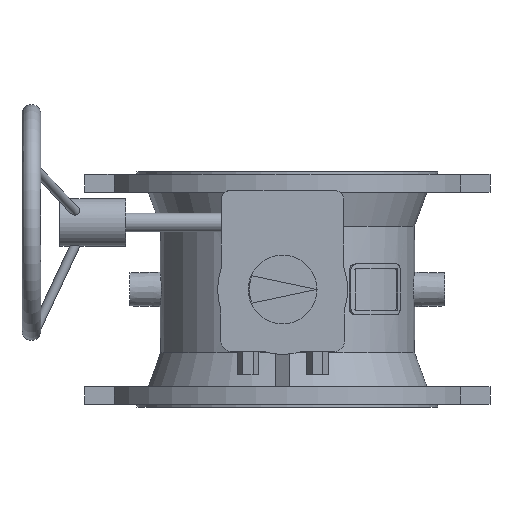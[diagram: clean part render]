
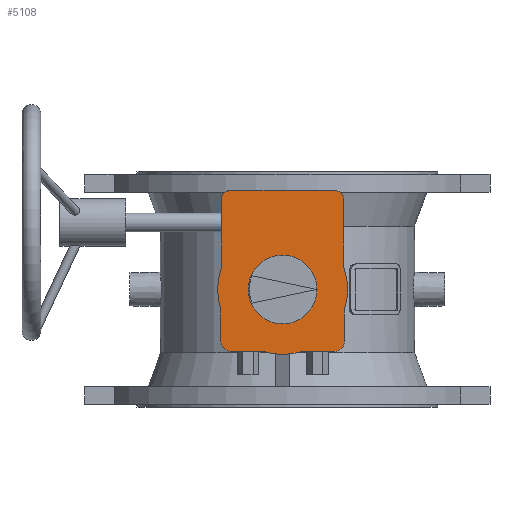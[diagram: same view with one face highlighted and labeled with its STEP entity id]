
A CAD part, left-side view. The second image highlights one B-rep face of the part: STEP entity #5108.
In plain terms, the highlighted planar face has unit normal (-1, 0, 0).
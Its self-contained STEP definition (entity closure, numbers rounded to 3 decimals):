
#4 = AXIS2_PLACEMENT_3D ( 'NONE', #11673, #11634, #11585 ) ;
#117 = AXIS2_PLACEMENT_3D ( 'NONE', #1069, #1070, #1050 ) ;
#140 = AXIS2_PLACEMENT_3D ( 'NONE', #11622, #11621, #11616 ) ;
#143 = AXIS2_PLACEMENT_3D ( 'NONE', #11679, #11677, #11672 ) ;
#154 = AXIS2_PLACEMENT_3D ( 'NONE', #11778, #11776, #11774 ) ;
#252 = CARTESIAN_POINT ( 'NONE',  ( -313., 0., 0. ) ) ;
#253 = DIRECTION ( 'NONE',  ( -1., 0., 0. ) ) ;
#254 = DIRECTION ( 'NONE',  ( 0., 0., 1. ) ) ;
#353 = DIRECTION ( 'NONE',  ( 0., 0., 1. ) ) ;
#354 = CARTESIAN_POINT ( 'NONE',  ( -313., 0., 0. ) ) ;
#355 = DIRECTION ( 'NONE',  ( -1., 0., 0. ) ) ;
#356 = DIRECTION ( 'NONE',  ( 0., 0., 1. ) ) ;
#358 = CARTESIAN_POINT ( 'NONE',  ( -313., -65., 24.819 ) ) ;
#372 = CARTESIAN_POINT ( 'NONE',  ( -313., -55.5, -55.5 ) ) ;
#373 = DIRECTION ( 'NONE',  ( -1., 0., 0. ) ) ;
#374 = DIRECTION ( 'NONE',  ( 0., 0., 1. ) ) ;
#377 = CARTESIAN_POINT ( 'NONE',  ( -313., -75., 24.819 ) ) ;
#378 = DIRECTION ( 'NONE',  ( 1., 0., 0. ) ) ;
#379 = DIRECTION ( 'NONE',  ( 0., 0., -1. ) ) ;
#384 = DIRECTION ( 'NONE',  ( 0., 0., 1. ) ) ;
#386 = CARTESIAN_POINT ( 'NONE',  ( -313., -55., 95. ) ) ;
#387 = DIRECTION ( 'NONE',  ( -1., 0., 0. ) ) ;
#388 = DIRECTION ( 'NONE',  ( 0., 0., 1. ) ) ;
#390 = CARTESIAN_POINT ( 'NONE',  ( -313., -65.5, -55.5 ) ) ;
#453 = CARTESIAN_POINT ( 'NONE',  ( -313., -55.5, -65.5 ) ) ;
#464 = CARTESIAN_POINT ( 'NONE',  ( -313., 65.5, -55.5 ) ) ;
#465 = DIRECTION ( 'NONE',  ( 0., 0., -1. ) ) ;
#472 = DIRECTION ( 'NONE',  ( 0., -1., 0. ) ) ;
#494 = CARTESIAN_POINT ( 'NONE',  ( -313., 55., 95. ) ) ;
#495 = DIRECTION ( 'NONE',  ( -1., 0., 0. ) ) ;
#496 = DIRECTION ( 'NONE',  ( 0., 0., 1. ) ) ;
#662 = CARTESIAN_POINT ( 'NONE',  ( -313., 65., 24.819 ) ) ;
#663 = DIRECTION ( 'NONE',  ( 0., 0., -1. ) ) ;
#733 = CARTESIAN_POINT ( 'NONE',  ( -313., 0., 36.5 ) ) ;
#1050 = DIRECTION ( 'NONE',  ( 0., 0., 1. ) ) ;
#1069 = CARTESIAN_POINT ( 'NONE',  ( -313., 75., 24.819 ) ) ;
#1070 = DIRECTION ( 'NONE',  ( -1., 0., 0. ) ) ;
#1078 = PLANE ( 'NONE',  #117 ) ;
#1676 = FACE_OUTER_BOUND ( 'NONE', #14223, .T. ) ;
#1679 = FACE_BOUND ( 'NONE', #14298, .T. ) ;
#1884 = CIRCLE ( 'NONE', #4, 10. ) ;
#1905 = LINE ( 'NONE', #11885, #1912 ) ;
#1912 = VECTOR ( 'NONE', #11864, 1000. ) ;
#1926 = CIRCLE ( 'NONE', #154, 69. ) ;
#1935 = LINE ( 'NONE', #11681, #1943 ) ;
#1937 = CIRCLE ( 'NONE', #143, 69. ) ;
#1943 = VECTOR ( 'NONE', #11668, 1000. ) ;
#1952 = CIRCLE ( 'NONE', #140, 10. ) ;
#3096 = ORIENTED_EDGE ( 'NONE', *, *, #5775, .T. ) ;
#3097 = ORIENTED_EDGE ( 'NONE', *, *, #14111, .T. ) ;
#3098 = ORIENTED_EDGE ( 'NONE', *, *, #14155, .T. ) ;
#3099 = ORIENTED_EDGE ( 'NONE', *, *, #5743, .T. ) ;
#3100 = ORIENTED_EDGE ( 'NONE', *, *, #5773, .T. ) ;
#3101 = ORIENTED_EDGE ( 'NONE', *, *, #14099, .T. ) ;
#3102 = ORIENTED_EDGE ( 'NONE', *, *, #5783, .T. ) ;
#3103 = ORIENTED_EDGE ( 'NONE', *, *, #5757, .T. ) ;
#3104 = ORIENTED_EDGE ( 'NONE', *, *, #14009, .T. ) ;
#3105 = ORIENTED_EDGE ( 'NONE', *, *, #14102, .T. ) ;
#3106 = ORIENTED_EDGE ( 'NONE', *, *, #14056, .T. ) ;
#3107 = ORIENTED_EDGE ( 'NONE', *, *, #14068, .T. ) ;
#3108 = ORIENTED_EDGE ( 'NONE', *, *, #5765, .T. ) ;
#3109 = ORIENTED_EDGE ( 'NONE', *, *, #14058, .T. ) ;
#3110 = ORIENTED_EDGE ( 'NONE', *, *, #14053, .T. ) ;
#3111 = ORIENTED_EDGE ( 'NONE', *, *, #14062, .T. ) ;
#3112 = ORIENTED_EDGE ( 'NONE', *, *, #14049, .F. ) ;
#5108 = ADVANCED_FACE ( 'NONE', ( #1676, #1679 ), #1078, .T. ) ;
#5743 = EDGE_CURVE ( 'NONE', #7244, #7101, #1884, .T. ) ;
#5757 = EDGE_CURVE ( 'NONE', #7010, #6938, #1905, .T. ) ;
#5765 = EDGE_CURVE ( 'NONE', #7174, #7246, #1926, .T. ) ;
#5773 = EDGE_CURVE ( 'NONE', #7101, #6763, #1937, .T. ) ;
#5775 = EDGE_CURVE ( 'NONE', #7013, #7020, #1935, .T. ) ;
#5783 = EDGE_CURVE ( 'NONE', #6990, #7010, #1952, .T. ) ;
#6683 = VERTEX_POINT ( 'NONE', #8216 ) ;
#6763 = VERTEX_POINT ( 'NONE', #8138 ) ;
#6938 = VERTEX_POINT ( 'NONE', #8026 ) ;
#6939 = VERTEX_POINT ( 'NONE', #8025 ) ;
#6990 = VERTEX_POINT ( 'NONE', #7996 ) ;
#6995 = VERTEX_POINT ( 'NONE', #7994 ) ;
#7010 = VERTEX_POINT ( 'NONE', #7986 ) ;
#7013 = VERTEX_POINT ( 'NONE', #7984 ) ;
#7020 = VERTEX_POINT ( 'NONE', #7981 ) ;
#7091 = CARTESIAN_POINT ( 'NONE',  ( -313., -65.506, 21.678 ) ) ;
#7095 = CARTESIAN_POINT ( 'NONE',  ( -313., 65., 24.819 ) ) ;
#7101 = VERTEX_POINT ( 'NONE', #7932 ) ;
#7129 = VERTEX_POINT ( 'NONE', #7775 ) ;
#7160 = CARTESIAN_POINT ( 'NONE',  ( -313., -55.5, -65.5 ) ) ;
#7174 = VERTEX_POINT ( 'NONE', #7501 ) ;
#7178 = VERTEX_POINT ( 'NONE', #7522 ) ;
#7229 = VERTEX_POINT ( 'NONE', #7160 ) ;
#7244 = VERTEX_POINT ( 'NONE', #7095 ) ;
#7246 = VERTEX_POINT ( 'NONE', #7091 ) ;
#7501 = CARTESIAN_POINT ( 'NONE',  ( -313., -65.5, -21.697 ) ) ;
#7522 = CARTESIAN_POINT ( 'NONE',  ( -313., -65., 95. ) ) ;
#7775 = CARTESIAN_POINT ( 'NONE',  ( -313., -65., 24.819 ) ) ;
#7932 = CARTESIAN_POINT ( 'NONE',  ( -313., 65.506, 21.678 ) ) ;
#7981 = CARTESIAN_POINT ( 'NONE',  ( -313., 55., 105. ) ) ;
#7984 = CARTESIAN_POINT ( 'NONE',  ( -313., -55., 105. ) ) ;
#7986 = CARTESIAN_POINT ( 'NONE',  ( -313., 55.5, -65.5 ) ) ;
#7994 = CARTESIAN_POINT ( 'NONE',  ( -313., -21.697, -65.5 ) ) ;
#7996 = CARTESIAN_POINT ( 'NONE',  ( -313., 65.5, -55.5 ) ) ;
#8025 = CARTESIAN_POINT ( 'NONE',  ( -313., -65.5, -55.5 ) ) ;
#8026 = CARTESIAN_POINT ( 'NONE',  ( -313., 21.697, -65.5 ) ) ;
#8138 = CARTESIAN_POINT ( 'NONE',  ( -313., 65.5, -21.697 ) ) ;
#8216 = CARTESIAN_POINT ( 'NONE',  ( -313., 65., 95. ) ) ;
#9448 = AXIS2_PLACEMENT_3D ( 'NONE', #494, #495, #496 ) ;
#9471 = AXIS2_PLACEMENT_3D ( 'NONE', #386, #387, #388 ) ;
#9473 = AXIS2_PLACEMENT_3D ( 'NONE', #372, #373, #374 ) ;
#9485 = AXIS2_PLACEMENT_3D ( 'NONE', #377, #378, #379 ) ;
#9500 = AXIS2_PLACEMENT_3D ( 'NONE', #354, #355, #356 ) ;
#11585 = DIRECTION ( 'NONE',  ( 0., 0., 1. ) ) ;
#11616 = DIRECTION ( 'NONE',  ( 0., 0., 1. ) ) ;
#11621 = DIRECTION ( 'NONE',  ( -1., 0., 0. ) ) ;
#11622 = CARTESIAN_POINT ( 'NONE',  ( -313., 55.5, -55.5 ) ) ;
#11634 = DIRECTION ( 'NONE',  ( 1., 0., 0. ) ) ;
#11668 = DIRECTION ( 'NONE',  ( 0., 1., 0. ) ) ;
#11672 = DIRECTION ( 'NONE',  ( 0., 0., 1. ) ) ;
#11673 = CARTESIAN_POINT ( 'NONE',  ( -313., 75., 24.819 ) ) ;
#11677 = DIRECTION ( 'NONE',  ( -1., 0., 0. ) ) ;
#11679 = CARTESIAN_POINT ( 'NONE',  ( -313., 0., 0. ) ) ;
#11681 = CARTESIAN_POINT ( 'NONE',  ( -313., -65., 105. ) ) ;
#11774 = DIRECTION ( 'NONE',  ( 0., 0., 1. ) ) ;
#11776 = DIRECTION ( 'NONE',  ( -1., 0., 0. ) ) ;
#11778 = CARTESIAN_POINT ( 'NONE',  ( -313., 0., 0. ) ) ;
#11864 = DIRECTION ( 'NONE',  ( 0., -1., 0. ) ) ;
#11885 = CARTESIAN_POINT ( 'NONE',  ( -313., 55.5, -65.5 ) ) ;
#14009 = EDGE_CURVE ( 'NONE', #6938, #6995, #15634, .T. ) ;
#14049 = EDGE_CURVE ( 'NONE', #16099, #16099, #15739, .T. ) ;
#14053 = EDGE_CURVE ( 'NONE', #7129, #7178, #15751, .T. ) ;
#14056 = EDGE_CURVE ( 'NONE', #7229, #6939, #15763, .T. ) ;
#14058 = EDGE_CURVE ( 'NONE', #7246, #7129, #15759, .T. ) ;
#14062 = EDGE_CURVE ( 'NONE', #7178, #7013, #15774, .T. ) ;
#14068 = EDGE_CURVE ( 'NONE', #6939, #7174, #15792, .T. ) ;
#14099 = EDGE_CURVE ( 'NONE', #6763, #6990, #15894, .T. ) ;
#14102 = EDGE_CURVE ( 'NONE', #6995, #7229, #15901, .T. ) ;
#14111 = EDGE_CURVE ( 'NONE', #7020, #6683, #15930, .T. ) ;
#14155 = EDGE_CURVE ( 'NONE', #6683, #7244, #16031, .T. ) ;
#14223 = EDGE_LOOP ( 'NONE', ( #3096, #3097, #3098, #3099, #3100, #3101, #3102, #3103, #3104, #3105, #3106, #3107, #3108, #3109, #3110, #3111 ) ) ;
#14298 = EDGE_LOOP ( 'NONE', ( #3112 ) ) ;
#14453 = AXIS2_PLACEMENT_3D ( 'NONE', #252, #253, #254 ) ;
#15634 = CIRCLE ( 'NONE', #14453, 69. ) ;
#15739 = CIRCLE ( 'NONE', #9500, 36.5 ) ;
#15751 = LINE ( 'NONE', #358, #15756 ) ;
#15756 = VECTOR ( 'NONE', #353, 1000. ) ;
#15759 = CIRCLE ( 'NONE', #9485, 10. ) ;
#15763 = CIRCLE ( 'NONE', #9473, 10. ) ;
#15774 = CIRCLE ( 'NONE', #9471, 10. ) ;
#15792 = LINE ( 'NONE', #390, #15796 ) ;
#15796 = VECTOR ( 'NONE', #384, 1000. ) ;
#15894 = LINE ( 'NONE', #464, #15898 ) ;
#15898 = VECTOR ( 'NONE', #465, 1000. ) ;
#15901 = LINE ( 'NONE', #453, #15904 ) ;
#15904 = VECTOR ( 'NONE', #472, 1000. ) ;
#15930 = CIRCLE ( 'NONE', #9448, 10. ) ;
#16029 = VECTOR ( 'NONE', #663, 1000. ) ;
#16031 = LINE ( 'NONE', #662, #16029 ) ;
#16099 = VERTEX_POINT ( 'NONE', #733 ) ;
